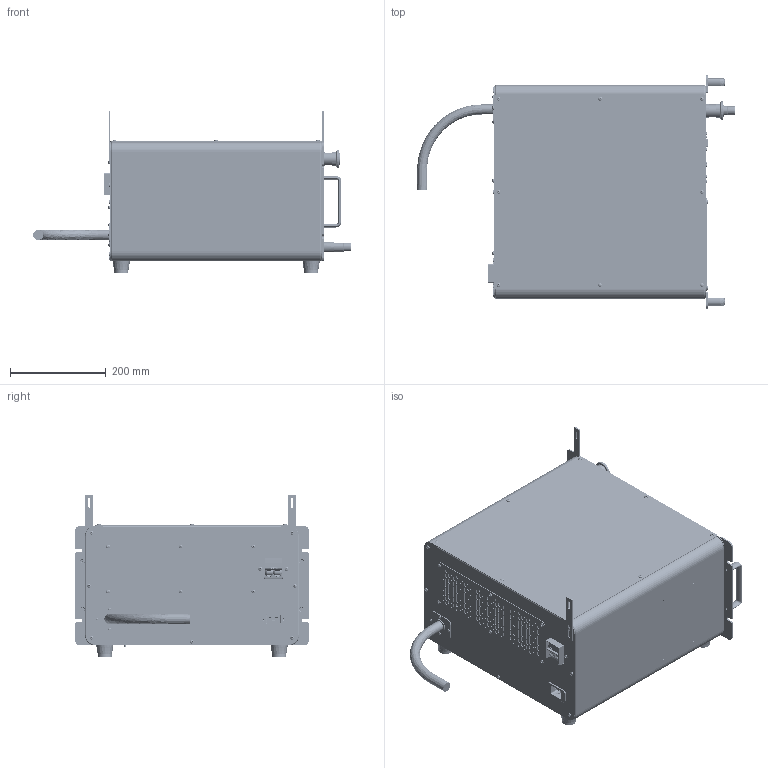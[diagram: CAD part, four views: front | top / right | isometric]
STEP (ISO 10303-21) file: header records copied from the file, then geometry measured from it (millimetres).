
FILE_DESCRIPTION(/* description */ (''),/* implementation_level */ '2;1');
FILE_NAME(/* name */ 'XBC5M_简化模型(20221217).stp',/* time_stamp */ '2022-12-17T11:08:47+08:00',/* author */ (''),/* organization */ (''),/* preprocessor_version */ 'ST-DEVELOPER v16',/* originating_system */ 'SIEMENS PLM Software NX 10.0',/* authorisation */ '');
FILE_SCHEMA (('AUTOMOTIVE_DESIGN { 1 0 10303 214 3 1 1 1 }'));
Products named in the file (1): XBC5M_简化模型(20221217)
Bounding box: 664.1 x 488.5 x 340.5 mm (x, y, z)
Volume: 1800990 mm3; surface area: 1852205.9 mm2
Topology: 16 solids, 40 shells, 9562 faces, 24649 edges, 15547 vertices
Faces by surface type: plane 6664, cylinder 1365, cone 584, bspline 386, extrusion 280, torus 192, sphere 91
Full cylindrical faces by diameter (mm): 2.719 x18, 2.874 x26, 3.2 x1, 3.3 x12, 3.4 x22, 3.61 x19, 3.838 x45, 4 x29, 4.134 x4, 4.5 x27, 5 x6, 5.4 x47, 5.5 x2, 5.6 x18, 6.302 x12, 6.35 x2, 6.647 x4, 8 x35, 8.4 x6, 9.3 x4, 10 x2, 17 x1, 17.4 x1, 18 x1, 19 x5, 19.5 x1, 20 x1, 21 x1, 21.049 x1, 21.75 x1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
Entity records: 300682 total; most frequent: CARTESIAN_POINT 73095, ORIENTED_EDGE 47520, DIRECTION 44635, EDGE_CURVE 23760, VECTOR 16855, LINE 16575, VERTEX_POINT 15293, AXIS2_PLACEMENT_3D 13890
